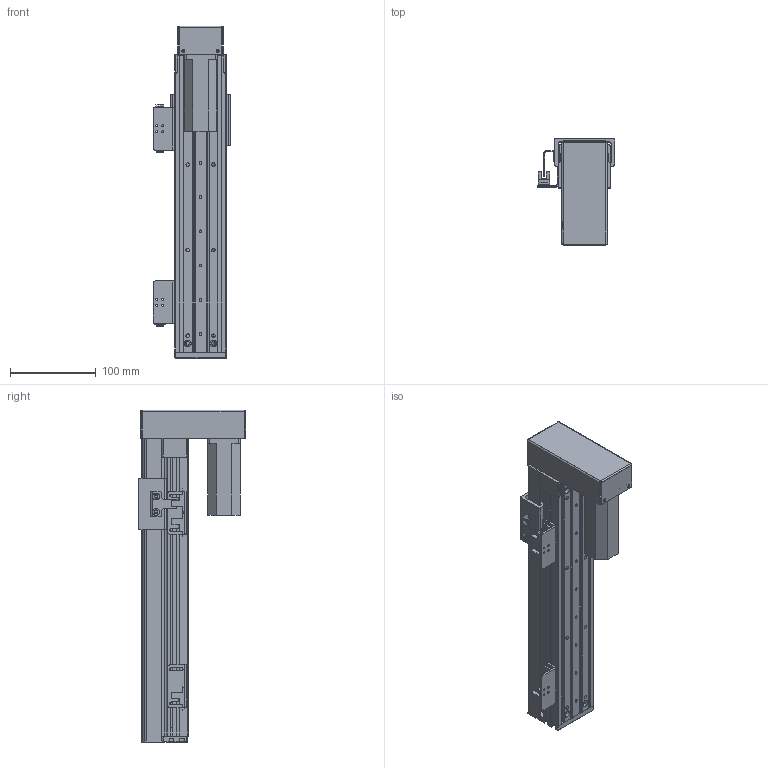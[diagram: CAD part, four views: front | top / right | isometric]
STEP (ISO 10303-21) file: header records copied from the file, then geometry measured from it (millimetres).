
FILE_DESCRIPTION (( 'STEP AP203' ), '1' );
FILE_NAME ('RY60FB-L1210-300-BK.SLDASM_200.step', '2021-02-23T00:55:19', ( '盈信电脑' ), ( '东莞市道滘镇水果街19号' ), 'SwSTEP 2.0', 'SolidWorks 2012', '' );
FILE_SCHEMA (( 'CONFIG_CONTROL_DESIGN' ));
Length unit declared in the file: millimetre
Products named in the file (15): RY60FB-L1210-300-BK.SLDASM_200; RY60FB-蛌殏萇儂欶; RY60FB-674嫖萇耀輸; RY60FB-狟殏萇儂假蚾啣; 覜茼ん674; RY60FB-感应器674光电安装座; RY80俋离覜茼え; 侂狟100W; RY60FB转折电机端支撑座; RY60FB-蛌殏奻裔-300-BK_200; RY60FB綴裔啣; RY60FB-臏賑輸; RY60FB-蛌殏菁釱-300-BK_200; 滅袉蝶18-10
Assembly tree (20 placements, depth 3):
  RY60FB-L1210-300-BK.SLDASM_200
    RY60FB-蛌殏菁釱-300-BK_200
    RY60FB-臏賑輸
    滅袉蝶18-10  x4
    RY60FB-蛌殏奻裔-300-BK_200
    侂狟100W
    RY60FB綴裔啣
    RY60FB转折电机端支撑座
    RY80俋离覜茼え
    RY60FB-674嫖萇耀輸
      RY60FB-感应器674光电安装座
      覜茼ん674  x2
    RY60FB-674嫖萇耀輸
      RY60FB-感应器674光电安装座
      覜茼ん674
    RY60FB-狟殏萇儂假蚾啣
    RY60FB-蛌殏萇儂欶
Bounding box: 90 x 125.45 x 388 mm (x, y, z)
Volume: 632469.1 mm3; surface area: 337423.7 mm2
Topology: 18 solids, 18 shells, 1073 faces, 2920 edges, 1856 vertices
Faces by surface type: plane 529, cylinder 439, cone 97, bspline 8
Entity records: 30685 total; most frequent: CARTESIAN_POINT 5997, DIRECTION 4832, ORIENTED_EDGE 4736, EDGE_CURVE 2368, AXIS2_PLACEMENT_3D 1679, VERTEX_POINT 1532, LINE 1474, VECTOR 1474
